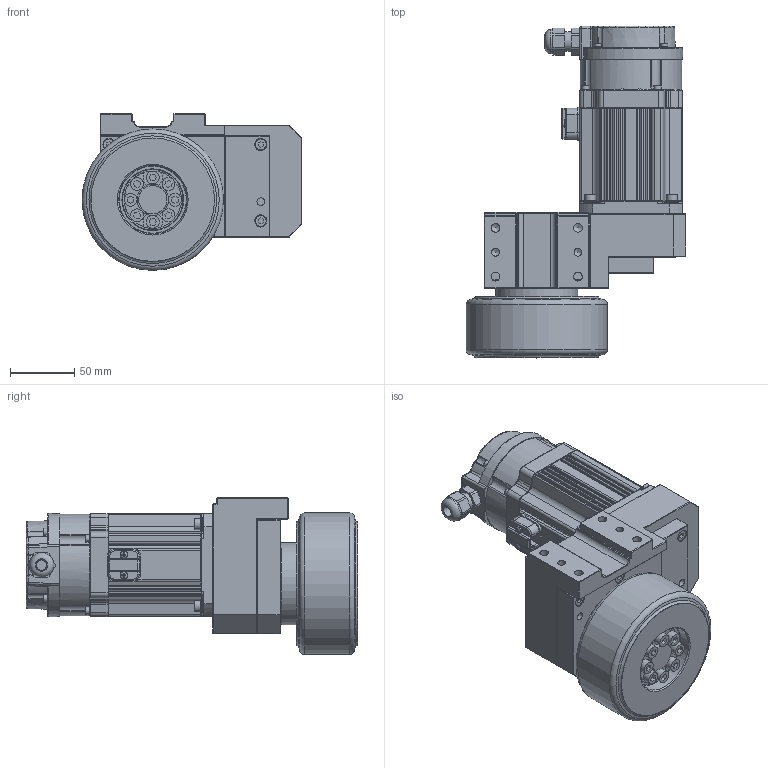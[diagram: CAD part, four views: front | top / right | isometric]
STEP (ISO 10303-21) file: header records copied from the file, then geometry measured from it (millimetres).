
FILE_DESCRIPTION(('STEP AP203'),'1');
FILE_NAME('SWR010B-T11.stp','2021-04-08T03:54:04',(' '),(' '),'Spatial InterOp 3D',' ',' ');
FILE_SCHEMA(('CONFIG_CONTROL_DESIGN'));
Length unit declared in the file: millimetre
Products named in the file (1): SWR010B-T11
Bounding box: 171 x 258 x 122 mm (x, y, z)
Volume: 1913514 mm3; surface area: 183118.6 mm2
Topology: 1 solids, 40 shells, 2343 faces, 5533 edges, 3308 vertices
Faces by surface type: plane 1181, cone 476, cylinder 467, torus 150, bspline 51, sphere 11, revolution 7
Full cylindrical faces by diameter (mm): 2.5 x4, 3 x10, 3.3 x5, 3.5 x8, 4 x4, 4.2 x10, 5 x18, 5.3 x4, 5.5 x14, 5.6 x2, 6 x12, 6.6 x6, 6.75 x6, 7 x4, 8 x1, 8.5 x11, 9 x1, 9.5 x6, 10 x12, 15.2 x1, 19 x1, 22 x1, 24.5 x2, 25 x1, 44.5 x2, 47 x1, 53 x1, 64 x1, 78 x1, 96 x2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
Entity records: 69167 total; most frequent: CARTESIAN_POINT 17173, DIRECTION 11186, ORIENTED_EDGE 10182, EDGE_CURVE 5091, AXIS2_PLACEMENT_3D 4222, VERTEX_POINT 3161, EDGE_LOOP 2740, LINE 2735
